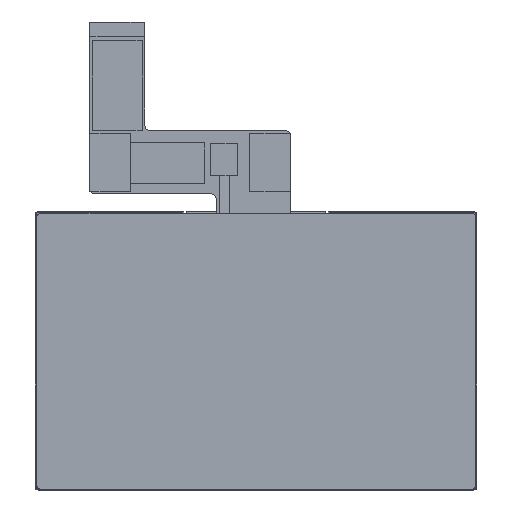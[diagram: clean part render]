
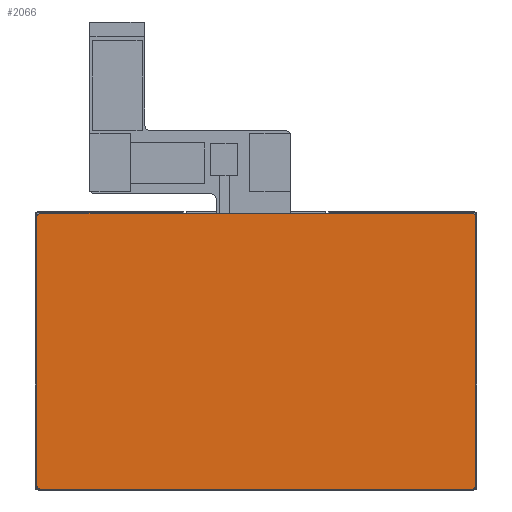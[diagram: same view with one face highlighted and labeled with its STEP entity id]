
A CAD part, front view. The second image highlights one B-rep face of the part: STEP entity #2066.
In plain terms, the highlighted planar face has unit normal (0, -1, 0).
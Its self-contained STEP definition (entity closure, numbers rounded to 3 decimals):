
#7 = ORIENTED_EDGE ( 'NONE', *, *, #6394, .F. ) ;
#59 = DIRECTION ( 'NONE',  ( 0., 0., -1. ) ) ;
#299 = EDGE_CURVE ( 'NONE', #1481, #4227, #5447, .T. ) ;
#336 = VERTEX_POINT ( 'NONE', #565 ) ;
#441 = AXIS2_PLACEMENT_3D ( 'NONE', #5229, #5798, #5836 ) ;
#473 = CARTESIAN_POINT ( 'NONE',  ( 162.3, 0., -125.6 ) ) ;
#476 = VERTEX_POINT ( 'NONE', #4019 ) ;
#565 = CARTESIAN_POINT ( 'NONE',  ( 0., 0., -24.3 ) ) ;
#736 = ORIENTED_EDGE ( 'NONE', *, *, #299, .F. ) ;
#1100 = VERTEX_POINT ( 'NONE', #3796 ) ;
#1102 = CARTESIAN_POINT ( 'NONE',  ( 82.15, 0., -22.3 ) ) ;
#1109 = EDGE_LOOP ( 'NONE', ( #2758, #2581, #7, #2777, #3491, #5288, #736, #4094 ) ) ;
#1351 = DIRECTION ( 'NONE',  ( 0., 1., 0. ) ) ;
#1415 = VECTOR ( 'NONE', #59, 1000. ) ;
#1460 = EDGE_CURVE ( 'NONE', #1819, #4849, #1614, .T. ) ;
#1481 = VERTEX_POINT ( 'NONE', #3256 ) ;
#1550 = DIRECTION ( 'NONE',  ( 0., 0., 1. ) ) ;
#1614 = CIRCLE ( 'NONE', #5479, 2. ) ;
#1760 = CARTESIAN_POINT ( 'NONE',  ( 164.3, 0., -62.8 ) ) ;
#1819 = VERTEX_POINT ( 'NONE', #4718 ) ;
#2008 = CARTESIAN_POINT ( 'NONE',  ( 162.3, 0., -123.6 ) ) ;
#2066 = ADVANCED_FACE ( 'NONE', ( #4465 ), #5141, .F. ) ;
#2086 = CARTESIAN_POINT ( 'NONE',  ( 2., 0., -123.6 ) ) ;
#2407 = DIRECTION ( 'NONE',  ( -1., 0., 0. ) ) ;
#2446 = DIRECTION ( 'NONE',  ( 0., 0., 1. ) ) ;
#2581 = ORIENTED_EDGE ( 'NONE', *, *, #1460, .F. ) ;
#2692 = VERTEX_POINT ( 'NONE', #473 ) ;
#2758 = ORIENTED_EDGE ( 'NONE', *, *, #6801, .F. ) ;
#2777 = ORIENTED_EDGE ( 'NONE', *, *, #5292, .F. ) ;
#3030 = EDGE_CURVE ( 'NONE', #336, #1481, #6159, .T. ) ;
#3155 = CARTESIAN_POINT ( 'NONE',  ( 0., 0., -123.6 ) ) ;
#3256 = CARTESIAN_POINT ( 'NONE',  ( 2., 0., -22.3 ) ) ;
#3491 = ORIENTED_EDGE ( 'NONE', *, *, #6270, .F. ) ;
#3504 = CARTESIAN_POINT ( 'NONE',  ( 82.15, 0., -62.8 ) ) ;
#3524 = DIRECTION ( 'NONE',  ( 0., 0., 1. ) ) ;
#3560 = AXIS2_PLACEMENT_3D ( 'NONE', #3504, #5677, #2446 ) ;
#3769 = DIRECTION ( 'NONE',  ( 0., 0., 1. ) ) ;
#3796 = CARTESIAN_POINT ( 'NONE',  ( 164.3, 0., -123.6 ) ) ;
#3825 = LINE ( 'NONE', #6004, #6192 ) ;
#4019 = CARTESIAN_POINT ( 'NONE',  ( 164.3, 0., -24.3 ) ) ;
#4094 = ORIENTED_EDGE ( 'NONE', *, *, #3030, .F. ) ;
#4227 = VERTEX_POINT ( 'NONE', #4577 ) ;
#4308 = AXIS2_PLACEMENT_3D ( 'NONE', #2008, #7037, #3769 ) ;
#4465 = FACE_OUTER_BOUND ( 'NONE', #1109, .T. ) ;
#4526 = CARTESIAN_POINT ( 'NONE',  ( 0., 0., -62.8 ) ) ;
#4577 = CARTESIAN_POINT ( 'NONE',  ( 162.3, 0., -22.3 ) ) ;
#4718 = CARTESIAN_POINT ( 'NONE',  ( 2., 0., -125.6 ) ) ;
#4770 = LINE ( 'NONE', #1760, #1415 ) ;
#4849 = VERTEX_POINT ( 'NONE', #3155 ) ;
#4909 = AXIS2_PLACEMENT_3D ( 'NONE', #6231, #1351, #3524 ) ;
#5141 = PLANE ( 'NONE',  #3560 ) ;
#5229 = CARTESIAN_POINT ( 'NONE',  ( 162.3, 0., -24.3 ) ) ;
#5288 = ORIENTED_EDGE ( 'NONE', *, *, #5577, .F. ) ;
#5292 = EDGE_CURVE ( 'NONE', #1100, #2692, #6463, .T. ) ;
#5447 = LINE ( 'NONE', #1102, #6291 ) ;
#5479 = AXIS2_PLACEMENT_3D ( 'NONE', #2086, #6428, #1550 ) ;
#5518 = DIRECTION ( 'NONE',  ( 1., 0., 0. ) ) ;
#5577 = EDGE_CURVE ( 'NONE', #4227, #476, #6451, .T. ) ;
#5636 = DIRECTION ( 'NONE',  ( 0., 0., 1. ) ) ;
#5677 = DIRECTION ( 'NONE',  ( 0., 1., 0. ) ) ;
#5798 = DIRECTION ( 'NONE',  ( 0., 1., 0. ) ) ;
#5836 = DIRECTION ( 'NONE',  ( 0., 0., 1. ) ) ;
#5862 = VECTOR ( 'NONE', #5636, 1000. ) ;
#6004 = CARTESIAN_POINT ( 'NONE',  ( 82.15, 0., -125.6 ) ) ;
#6159 = CIRCLE ( 'NONE', #4909, 2. ) ;
#6174 = LINE ( 'NONE', #4526, #5862 ) ;
#6192 = VECTOR ( 'NONE', #2407, 1000. ) ;
#6231 = CARTESIAN_POINT ( 'NONE',  ( 2., 0., -24.3 ) ) ;
#6270 = EDGE_CURVE ( 'NONE', #476, #1100, #4770, .T. ) ;
#6291 = VECTOR ( 'NONE', #5518, 1000. ) ;
#6394 = EDGE_CURVE ( 'NONE', #2692, #1819, #3825, .T. ) ;
#6428 = DIRECTION ( 'NONE',  ( 0., 1., 0. ) ) ;
#6451 = CIRCLE ( 'NONE', #441, 2. ) ;
#6463 = CIRCLE ( 'NONE', #4308, 2. ) ;
#6801 = EDGE_CURVE ( 'NONE', #4849, #336, #6174, .T. ) ;
#7037 = DIRECTION ( 'NONE',  ( 0., 1., 0. ) ) ;
